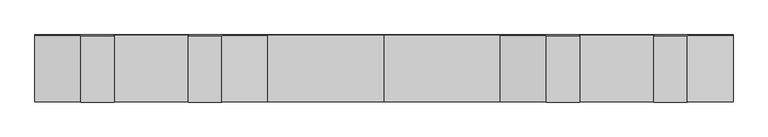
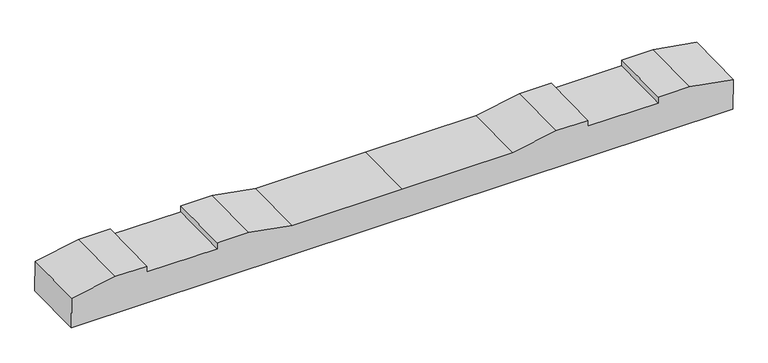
"""IFC4 building model written with IfcOpenShell, lengths in millimetres: proxy geometry, 轨枕-立面角度 : 轨枕-立面角度."""

from ifc_helpers import new_model, si_unit, frame, origin, place, context, project, spatial, polyline, outline, extrude, source, transform, mapped, element, save


def generic_models_f7a9a12e(model_context):
    return source(origin(), model_context, "Body", "SweptSolid", [
        extrude(outline(polyline([(0.0, 0.0), (2099.7669328, 0.0), (2099.7669328, -100.0206889), (1961.8834664, -124.5), (1861.8834664, -124.5), (1861.8834664, -104.5), (1637.8834664, -104.5), (1637.8834664, -124.5), (1537.8834664, -124.5), (1399.8834664, -99.9999999), (1049.8834664, -99.9999999), (699.8834664, -99.9999999), (561.8834664, -124.5), (461.8834664, -124.5), (461.8834664, -104.5), (237.8834664, -104.5), (237.8834664, -124.5), (137.8834664, -124.5), (0.0, -100.0206889), (0.0, 0.0)])), frame((-1049.8834664, -98.3392286, -106.0643489), z_axis=(0.0, 0.9998755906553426, 0.01577349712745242), x_axis=(1.0, 0.0, 0.0)), (0.0, 0.0, 1.0), 200.0),
    ])


if __name__ == "__main__":
    model = new_model("IFC4")
    model_context = context("Model", 3, world=origin())
    ifc_project = project(units=[si_unit("LENGTHUNIT", "METRE", prefix="MILLI")], contexts=[model_context])
    site = spatial("IfcSite", under=ifc_project)
    building = spatial("IfcBuilding", under=site)
    placement = place(None, origin())
    generic_models_shape = generic_models_f7a9a12e(model_context)
    element("IfcBuildingElementProxy", 1, Name="轨枕-立面角度 : 轨枕-立面角度", ObjectType="轨枕-立面角度 : 轨枕-立面角度", at=placement, inside=building, context=model_context, shape_type="MappedRepresentation", body=[
        mapped(generic_models_shape, transform((0.0, 0.0, 0.0), x_axis=(1.0, 0.0, 0.0), y_axis=(0.0, 1.0, 0.0), z_axis=(0.0, 0.0, 1.0))),
    ])
    save(model, "model.ifc")
